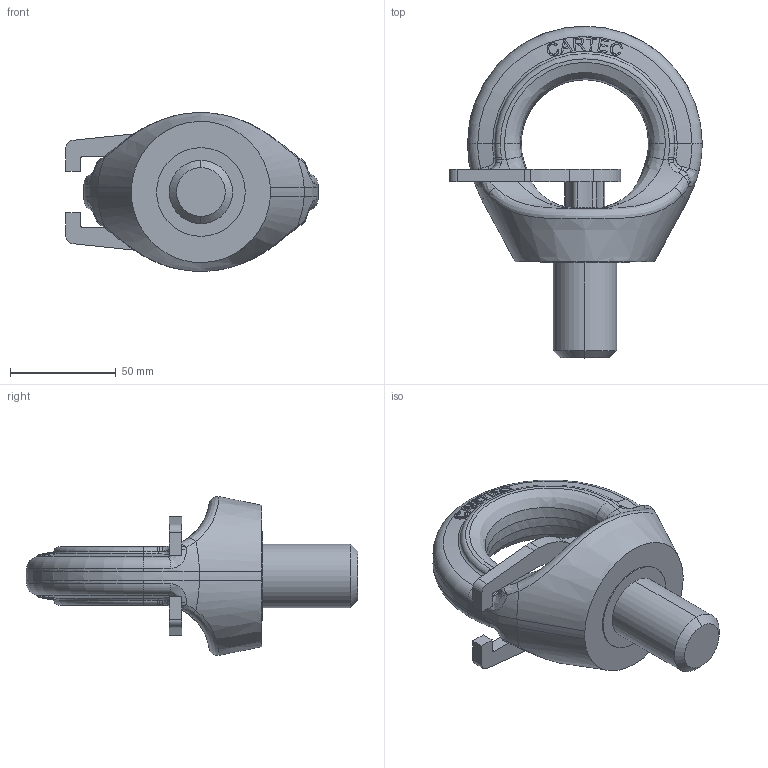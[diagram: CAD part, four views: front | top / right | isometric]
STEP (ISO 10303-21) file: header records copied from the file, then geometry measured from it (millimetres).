
FILE_DESCRIPTION(('STEP AP214'),'1');
FILE_NAME('c807ht30.stp','2017-03-27T13:34:27',('TraceParts'),('TraceParts S.A.'),'Spatial InterOp 3D',' ',' ');
FILE_SCHEMA(('automotive_design'));
Length unit declared in the file: millimetre
Products named in the file (3): c807ht30_1; c807ht30_2; c807ht30_3
Bounding box: 119.57 x 157.16 x 75.17 mm (x, y, z)
Volume: 276794.2 mm3; surface area: 53979.8 mm2
Topology: 3 solids, 3 shells, 417 faces, 1107 edges, 685 vertices
Faces by surface type: bspline 199, plane 130, cylinder 55, torus 19, cone 14
Entity records: 30253 total; most frequent: CARTESIAN_POINT 17779, ORIENTED_EDGE 2156, DIRECTION 1522, EDGE_CURVE 1078, VERTEX_POINT 685, AXIS2_PLACEMENT_3D 572, EDGE_LOOP 439, STYLED_ITEM 420
